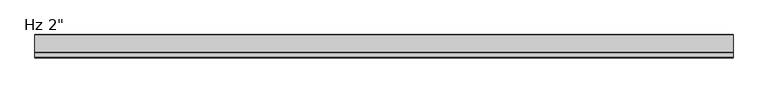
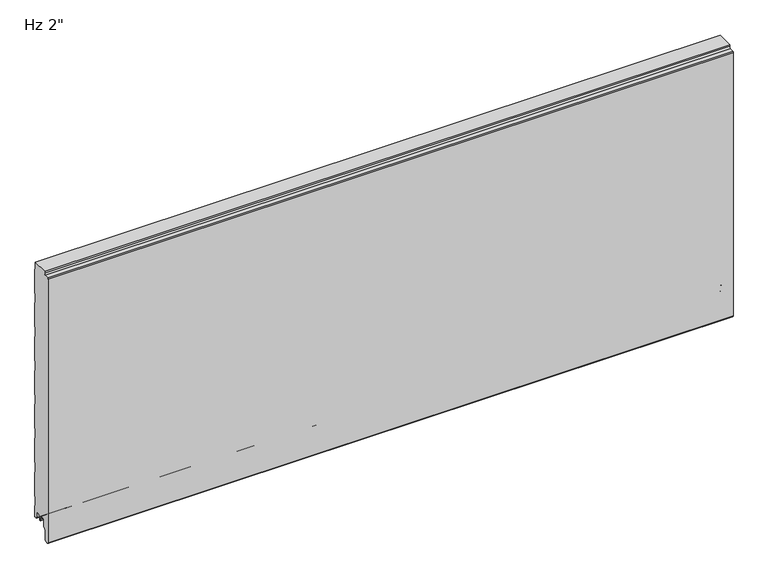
"""IFC4 building model written with IfcOpenShell, lengths in millimetres: plate geometry."""

from ifc_helpers import new_model, si_unit, frame, origin, place, context, project, spatial, polyline, circle_curve, source, transform, mapped, element, save
from ifc_brep_helpers import plane_surface, cylinder_surface, revolved_surface, advanced_brep


def plate_c88ea6cc(model_context):
    return source(origin(), model_context, "Body", "AdvancedBrep", [
        advanced_brep(
        [(-730.0, -22.4708959, 1.0316999), (-730.0, -21.3014212, 2.2328239), (-730.0, -21.3014212, 5.9912173), (-730.0, -22.6999001, 5.9912173), (-730.0, -22.6999001, 8.6903283), (-730.0, -26.0498954, 12.0403236), (-730.0, -30.4498866, 12.0403236), (-730.0, -33.7998819, 8.6903283), (-730.0, -33.7998819, -3.1205608), (-730.0, -34.2977988, -4.3226385), (-730.0, -39.7998699, -9.8247096), (-730.0, -39.7998699, -31.9198392), (-730.0, -42.0184719, -34.5765709), (-730.0, -47.0002927, -35.0125699), (-730.0, -49.7946177, -32.4521176), (-730.0, -49.8000209, 561.115622), (-730.0, -48.0149468, 563.0669057), (-730.0, -39.55397, 563.821161), (-730.0, -36.7906671, 566.9653654), (-730.0, -36.7906671, 571.2), (-730.0, -2.2065959, 571.2), (-730.0, -2.2065959, 555.8181446), (-730.0, -1.0063652, 554.4325117), (-730.0, -1.0063652, 500.3790963), (-730.0, -2.2065959, 498.9934633), (-730.0, -2.2065959, 479.618297), (-730.0, -1.0063652, 478.2326641), (-730.0, -1.0063652, 424.1792487), (-730.0, -2.2065959, 422.7936157), (-730.0, -2.2065959, 403.4184494), (-730.0, -1.0063652, 402.0328165), (-730.0, -1.0063652, 347.9794011), (-730.0, -2.2065959, 346.5937681), (-730.0, -2.2065959, 327.2186018), (-730.0, -1.0063652, 325.8329689), (-730.0, -1.0063652, 271.7795535), (-730.0, -2.2065959, 270.3939205), (-730.0, -2.2065959, 251.0187542), (-730.0, -1.0063652, 249.6331213), (-730.0, -1.0063652, 195.5797059), (-730.0, -2.2065959, 194.1940729), (-730.0, -2.2065959, 174.8189066), (-730.0, -1.0063652, 173.4332737), (-730.0, -1.0063652, 119.3798583), (-730.0, -2.2065959, 117.9942253), (-730.0, -2.2065959, 98.619059), (-730.0, -1.0063652, 97.2334261), (-730.0, -1.0063652, 43.1800107), (-730.0, -2.2065959, 41.7943777), (-730.0, -2.2065959, 22.4192114), (-730.0, -1.0063652, 21.0335785), (-730.0, -1.0063652, -3.4662506), (-730.0, -5.2379042, -3.4662506), (-730.0, -7.0078983, -1.6962564), (-730.0, -7.0078983, 8.7237222), (-730.0, -10.3078942, 12.023718), (-730.0, -14.7078854, 12.023718), (-730.0, -18.0078811, 8.7237223), (-730.0, -18.0078811, 6.0315125), (-730.0, -19.0078757, 6.0315125), (-730.0, -19.0078757, 2.0313089), (-730.0, -18.0078844, 1.0313117), (-730.0, -19.0391961, 0.0), (-730.0, -21.439196, 0.0), (730.0, -22.4708959, 1.0316999), (730.0, -21.439196, 0.0), (730.0, -19.0391961, 0.0), (730.0, -18.0078844, 1.0313117), (730.0, -19.0078757, 2.0313089), (730.0, -19.0078757, 6.0315125), (730.0, -18.0078811, 6.0315125), (730.0, -18.0078811, 8.7237223), (730.0, -14.7078854, 12.023718), (730.0, -10.3078942, 12.023718), (730.0, -7.0078983, 8.7237222), (730.0, -7.0078983, -1.6962564), (730.0, -5.2379042, -3.4662506), (730.0, -1.0063652, -3.4662506), (730.0, -1.0063652, 21.0335785), (730.0, -2.2065959, 22.4192114), (730.0, -2.2065959, 41.7943777), (730.0, -1.0063652, 43.1800107), (730.0, -1.0063652, 97.2334261), (730.0, -2.2065959, 98.619059), (730.0, -2.2065959, 117.9942253), (730.0, -1.0063652, 119.3798583), (730.0, -1.0063652, 173.4332737), (730.0, -2.2065959, 174.8189066), (730.0, -2.2065959, 194.1940729), (730.0, -1.0063652, 195.5797059), (730.0, -1.0063652, 249.6331213), (730.0, -2.2065959, 251.0187542), (730.0, -2.2065959, 270.3939205), (730.0, -1.0063652, 271.7795535), (730.0, -1.0063652, 325.8329689), (730.0, -2.2065959, 327.2186018), (730.0, -2.2065959, 346.5937681), (730.0, -1.0063652, 347.9794011), (730.0, -1.0063652, 402.0328165), (730.0, -2.2065959, 403.4184494), (730.0, -2.2065959, 422.7936157), (730.0, -1.0063652, 424.1792487), (730.0, -1.0063652, 478.2326641), (730.0, -2.2065959, 479.618297), (730.0, -2.2065959, 498.9934633), (730.0, -1.0063652, 500.3790963), (730.0, -1.0063652, 554.4325117), (730.0, -2.2065959, 555.8181446), (730.0, -2.2065959, 571.2), (730.0, -36.7906671, 571.2), (730.0, -36.7906671, 566.9653654), (730.0, -39.55397, 563.821161), (730.0, -48.0149468, 563.0669057), (730.0, -49.8000209, 561.115622), (730.0, -49.8000209, -32.4521176), (730.0, -47.0002927, -35.0125699), (730.0, -42.0184719, -34.5765709), (730.0, -39.7998699, -31.9198392), (730.0, -39.7998699, -9.8247096), (730.0, -34.2977988, -4.3226385), (730.0, -33.7998819, -3.1205608), (730.0, -33.7998819, 8.6903283), (730.0, -30.4498866, 12.0403236), (730.0, -26.0498954, 12.0403236), (730.0, -22.6999001, 8.6903283), (730.0, -22.6999001, 5.9912173), (730.0, -21.3014212, 5.9912173), (730.0, -21.3014212, 2.2328239)],
        [
            (0, 1, circle_curve(frame((-730.0, -22.5014178, 2.2313092), z_axis=(1.0, 0.0, 0.0), x_axis=(0.0, 0.0, -1.0)), 1.1999976)),
            (1, 2),
            (2, 3),
            (3, 4),
            (4, 5, circle_curve(frame((-730.0, -26.0498954, 8.6903283), z_axis=(1.0, 0.0, 0.0), x_axis=(0.0, 0.0, -1.0)), 3.3499953)),
            (5, 6),
            (6, 7, circle_curve(frame((-730.0, -30.4498866, 8.6903283), z_axis=(1.0, 0.0, 0.0), x_axis=(0.0, 0.0, -1.0)), 3.3499953)),
            (7, 8),
            (8, 9, circle_curve(frame((-730.0, -35.4998765, -3.1205608), z_axis=(-1.0, 0.0, 0.0), x_axis=(0.0, 0.0, -1.0)), 1.6999946)),
            (9, 10),
            (10, 11),
            (11, 12, circle_curve(frame((-730.0, -42.4998625, -31.9198392), z_axis=(-1.0, 0.0, 0.0), x_axis=(0.0, 0.0, -1.0)), 2.6999926)),
            (12, 13),
            (13, 14, circle_curve(frame((-730.0, -47.2243784, -32.4521176), z_axis=(-1.0, 0.0, 0.0), x_axis=(0.0, 0.0, -1.0)), 2.5702393)),
            (14, 15),
            (15, 16, circle_curve(frame((-730.0, -47.8409993, 561.115622), z_axis=(-1.0, 0.0, 0.0), x_axis=(0.0, 0.0, -1.0)), 1.9590216)),
            (16, 17),
            (17, 18, circle_curve(frame((-730.0, -39.818053, 566.8396267), z_axis=(1.0, 0.0, 0.0), x_axis=(0.0, 0.0, -1.0)), 3.0299959)),
            (18, 19),
            (19, 20),
            (20, 21),
            (21, 22),
            (22, 23),
            (23, 24),
            (24, 25),
            (25, 26),
            (26, 27),
            (27, 28),
            (28, 29),
            (29, 30),
            (30, 31),
            (31, 32),
            (32, 33),
            (33, 34),
            (34, 35),
            (35, 36),
            (36, 37),
            (37, 38),
            (38, 39),
            (39, 40),
            (40, 41),
            (41, 42),
            (42, 43),
            (43, 44),
            (44, 45),
            (45, 46),
            (46, 47),
            (47, 48),
            (48, 49),
            (49, 50),
            (50, 51),
            (51, 52),
            (52, 53, circle_curve(frame((-730.0, -5.2379042, -1.6962564), z_axis=(-1.0, 0.0, 0.0), x_axis=(0.0, 0.0, -1.0)), 1.7699942)),
            (53, 54),
            (54, 55, circle_curve(frame((-730.0, -10.3078942, 8.7237222), z_axis=(1.0, 0.0, 0.0), x_axis=(0.0, 0.0, -1.0)), 3.2999959)),
            (55, 56),
            (56, 57, circle_curve(frame((-730.0, -14.7078854, 8.7237223), z_axis=(1.0, 0.0, 0.0), x_axis=(0.0, 0.0, -1.0)), 3.2999957)),
            (57, 58),
            (58, 59),
            (59, 60),
            (60, 61, circle_curve(frame((-730.0, -18.0078785, 2.0313089), z_axis=(1.0, 0.0, 0.0), x_axis=(0.0, 0.0, -1.0)), 0.9999972)),
            (61, 62),
            (62, 63),
            (63, 0),
            (64, 65),
            (65, 66),
            (66, 67),
            (67, 68, circle_curve(frame((730.0, -18.0078785, 2.0313089), z_axis=(-1.0, 0.0, 0.0), x_axis=(0.0, 0.0, -1.0)), 0.9999972)),
            (68, 69),
            (69, 70),
            (70, 71),
            (71, 72, circle_curve(frame((730.0, -14.7078854, 8.7237223), z_axis=(-1.0, 0.0, 0.0), x_axis=(0.0, 0.0, -1.0)), 3.2999957)),
            (72, 73),
            (73, 74, circle_curve(frame((730.0, -10.3078942, 8.7237222), z_axis=(-1.0, 0.0, 0.0), x_axis=(0.0, 0.0, -1.0)), 3.2999959)),
            (74, 75),
            (75, 76, circle_curve(frame((730.0, -5.2379042, -1.6962564), z_axis=(1.0, 0.0, 0.0), x_axis=(0.0, 0.0, -1.0)), 1.7699942)),
            (76, 77),
            (77, 78),
            (78, 79),
            (79, 80),
            (80, 81),
            (81, 82),
            (82, 83),
            (83, 84),
            (84, 85),
            (85, 86),
            (86, 87),
            (87, 88),
            (88, 89),
            (89, 90),
            (90, 91),
            (91, 92),
            (92, 93),
            (93, 94),
            (94, 95),
            (95, 96),
            (96, 97),
            (97, 98),
            (98, 99),
            (99, 100),
            (100, 101),
            (101, 102),
            (102, 103),
            (103, 104),
            (104, 105),
            (105, 106),
            (106, 107),
            (107, 108),
            (108, 109),
            (109, 110),
            (110, 111, circle_curve(frame((730.0, -39.818053, 566.8396267), z_axis=(-1.0, 0.0, 0.0), x_axis=(0.0, 0.0, -1.0)), 3.0299959)),
            (111, 112),
            (112, 113, circle_curve(frame((730.0, -47.8409993, 561.115622), z_axis=(1.0, 0.0, 0.0), x_axis=(0.0, 0.0, -1.0)), 1.9590216)),
            (113, 114),
            (114, 115, circle_curve(frame((730.0, -47.2243784, -32.4521176), z_axis=(1.0, 0.0, 0.0), x_axis=(0.0, 0.0, -1.0)), 2.5702393)),
            (115, 116),
            (116, 117, circle_curve(frame((730.0, -42.4998625, -31.9198392), z_axis=(1.0, 0.0, 0.0), x_axis=(0.0, 0.0, -1.0)), 2.6999926)),
            (117, 118),
            (118, 119),
            (119, 120, circle_curve(frame((730.0, -35.4998765, -3.1205608), z_axis=(1.0, 0.0, 0.0), x_axis=(0.0, 0.0, -1.0)), 1.6999946)),
            (120, 121),
            (121, 122, circle_curve(frame((730.0, -30.4498866, 8.6903283), z_axis=(-1.0, 0.0, 0.0), x_axis=(0.0, 0.0, -1.0)), 3.3499953)),
            (122, 123),
            (123, 124, circle_curve(frame((730.0, -26.0498954, 8.6903283), z_axis=(-1.0, 0.0, 0.0), x_axis=(0.0, 0.0, -1.0)), 3.3499953)),
            (124, 125),
            (125, 126),
            (126, 127),
            (127, 64, circle_curve(frame((730.0, -22.5014178, 2.2313092), z_axis=(-1.0, 0.0, 0.0), x_axis=(0.0, 0.0, -1.0)), 1.1999976)),
            (19, 109),
            (108, 20),
            (62, 66),
            (65, 63),
            (30, 98),
            (97, 31),
            (96, 32),
            (95, 33),
            (34, 94),
            (93, 35),
            (36, 92),
            (91, 37),
            (90, 38),
            (89, 39),
            (42, 86),
            (85, 43),
            (41, 87),
            (40, 88),
            (44, 84),
            (83, 45),
            (46, 82),
            (81, 47),
            (50, 78),
            (77, 51),
            (48, 80),
            (79, 49),
            (0, 64),
            (127, 1),
            (54, 74),
            (73, 55),
            (76, 52),
            (53, 75),
            (56, 72),
            (71, 57),
            (58, 70),
            (69, 59),
            (14, 114),
            (113, 15),
            (61, 67),
            (60, 68),
            (13, 115),
            (12, 116),
            (10, 118),
            (117, 11),
            (9, 119),
            (7, 121),
            (120, 8),
            (6, 122),
            (4, 124),
            (123, 5),
            (3, 125),
            (2, 126),
            (21, 107),
            (106, 22),
            (25, 103),
            (102, 26),
            (24, 104),
            (23, 105),
            (101, 27),
            (100, 28),
            (99, 29),
            (16, 112),
            (111, 17),
            (110, 18),
        ],
        [
            plane_surface(frame((-730.0, -49.8000209, 304.8), z_axis=(-1.0, 0.0, 0.0), x_axis=(0.0, -1.0, 0.0))),
            plane_surface(frame((730.0, -49.8000209, 304.8), z_axis=(1.0, 0.0, 0.0), x_axis=(0.0, -1.0, 0.0))),
            plane_surface(frame((730.0, 9.9999791, 571.2), z_axis=(0.0, 0.0, 1.0), x_axis=(-1.0, 0.0, 0.0))),
            plane_surface(frame((-730.0, -21.439196, 0.0), z_axis=(0.0, 0.0, -1.0), x_axis=(1.0, 0.0, 0.0))),
            plane_surface(frame((-730.0, -1.0063652, 347.9794011), z_axis=(0.0, 1.0, 0.0), x_axis=(1.0, 0.0, 0.0))),
            plane_surface(frame((-730.0, -2.2065959, 346.5937681), z_axis=(0.0, 0.7558648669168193, -0.6547276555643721), x_axis=(1.0, 0.0, 0.0))),
            plane_surface(frame((-730.0, -2.2065959, 327.2186018), z_axis=(0.0, 1.0, 0.0), x_axis=(1.0, 0.0, 0.0))),
            plane_surface(frame((-730.0, -1.0063652, 271.7795535), z_axis=(0.0, 1.0, 0.0), x_axis=(1.0, 0.0, 0.0))),
            plane_surface(frame((-730.0, -1.0063652, 325.8329689), z_axis=(0.0, 0.755864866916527, 0.6547276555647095), x_axis=(1.0, 0.0, 0.0))),
            plane_surface(frame((-730.0, -2.2065959, 251.0187542), z_axis=(0.0, 1.0, 0.0), x_axis=(1.0, 0.0, 0.0))),
            plane_surface(frame((-730.0, -1.0063652, 249.6331213), z_axis=(0.0, 0.755864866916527, 0.6547276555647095), x_axis=(1.0, 0.0, 0.0))),
            plane_surface(frame((-730.0, -2.2065959, 270.3939205), z_axis=(0.0, 0.755864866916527, -0.6547276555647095), x_axis=(1.0, 0.0, 0.0))),
            plane_surface(frame((-730.0, -1.0063652, 195.5797059), z_axis=(0.0, 1.0, 0.0), x_axis=(1.0, 0.0, 0.0))),
            plane_surface(frame((-730.0, -1.0063652, 119.3798583), z_axis=(0.0, 1.0, 0.0), x_axis=(1.0, 0.0, 0.0))),
            plane_surface(frame((-730.0, -1.0063652, 173.4332737), z_axis=(0.0, 0.7558648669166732, 0.6547276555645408), x_axis=(1.0, 0.0, 0.0))),
            plane_surface(frame((-730.0, -2.2065959, 174.8189066), z_axis=(0.0, 1.0, 0.0), x_axis=(1.0, 0.0, 0.0))),
            plane_surface(frame((-730.0, -2.2065959, 194.1940729), z_axis=(0.0, 0.755864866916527, -0.6547276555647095), x_axis=(1.0, 0.0, 0.0))),
            plane_surface(frame((-730.0, -2.2065959, 98.619059), z_axis=(0.0, 1.0, 0.0), x_axis=(1.0, 0.0, 0.0))),
            plane_surface(frame((-730.0, -2.2065959, 117.9942253), z_axis=(0.0, 0.7558648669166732, -0.6547276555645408), x_axis=(1.0, 0.0, 0.0))),
            plane_surface(frame((-730.0, -1.0063652, 43.1800107), z_axis=(0.0, 1.0, 0.0), x_axis=(1.0, 0.0, 0.0))),
            plane_surface(frame((-730.0, -1.0063652, 97.2334261), z_axis=(0.0, 0.7558648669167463, 0.6547276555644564), x_axis=(1.0, 0.0, 0.0))),
            plane_surface(frame((-730.0, -1.0063652, -3.4662506), z_axis=(0.0, 1.0, 0.0), x_axis=(1.0, 0.0, 0.0))),
            plane_surface(frame((-730.0, -2.2065959, 22.4192114), z_axis=(0.0, 1.0, 0.0), x_axis=(1.0, 0.0, 0.0))),
            plane_surface(frame((-730.0, -2.2065959, 41.7943777), z_axis=(0.0, 0.7558648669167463, -0.6547276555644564), x_axis=(1.0, 0.0, 0.0))),
            plane_surface(frame((-730.0, -1.0063652, 21.0335785), z_axis=(0.0, 0.7558648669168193, 0.6547276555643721), x_axis=(1.0, 0.0, 0.0))),
            revolved_surface(polyline([(730.0, -22.5014178, 1.0313116), (-730.0, -22.5014178, 1.0313116)]), (-730.0, -22.5014178, 2.2313092), (1.0, 0.0, 0.0)),
            plane_surface(frame((-730.0, -22.4708959, 1.0316999), z_axis=(0.0, -0.7071067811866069, -0.7071067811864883), x_axis=(1.0, 0.0, 0.0))),
            revolved_surface(polyline([(730.0, -10.3078942, 5.423726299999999), (-730.0, -10.3078942, 5.423726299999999)]), (-730.0, -10.3078942, 8.7237222), (1.0, 0.0, 0.0)),
            plane_surface(frame((-730.0, -5.2379042, -3.4662506), z_axis=(0.0, 0.0, -1.0), x_axis=(1.0, 0.0, 0.0))),
            plane_surface(frame((-730.0, -7.0078983, 8.7237222), z_axis=(0.0, -1.0, 0.0), x_axis=(1.0, 0.0, 0.0))),
            cylinder_surface(frame((-730.0, -5.2379042, -1.6962564), z_axis=(-1.0, 0.0, 0.0), x_axis=(0.0, 0.0, -1.0)), 1.7699942),
            revolved_surface(polyline([(730.0, -14.7078854, 5.4237266), (-730.0, -14.7078854, 5.4237266)]), (-730.0, -14.7078854, 8.7237223), (1.0, 0.0, 0.0)),
            plane_surface(frame((-730.0, -14.7078854, 12.023718), z_axis=(0.0, 0.0, -1.0), x_axis=(1.0, 0.0, 0.0))),
            plane_surface(frame((-730.0, -19.0078757, 6.0315125), z_axis=(0.0, 0.0, -1.0), x_axis=(1.0, 0.0, 0.0))),
            plane_surface(frame((-730.0, -18.0078811, 6.0315125), z_axis=(0.0, 1.0, 0.0), x_axis=(1.0, 0.0, 0.0))),
            plane_surface(frame((-730.0, -49.8000209, 561.115622), z_axis=(0.0, -1.0, 0.0), x_axis=(1.0, 0.0, 0.0))),
            plane_surface(frame((-730.0, -19.0391961, 0.0), z_axis=(0.0, 0.7071067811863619, -0.7071067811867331), x_axis=(1.0, 0.0, 0.0))),
            revolved_surface(polyline([(730.0, -18.0078785, 1.0313116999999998), (-730.0, -18.0078785, 1.0313116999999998)]), (-730.0, -18.0078785, 2.0313089), (1.0, 0.0, 0.0)),
            plane_surface(frame((-730.0, -19.0078757, 2.0313089), z_axis=(0.0, 1.0, 0.0), x_axis=(1.0, 0.0, 0.0))),
            cylinder_surface(frame((-730.0, -47.2243784, -32.4521176), z_axis=(-1.0, 0.0, 0.0), x_axis=(0.0, 0.0, -1.0)), 2.5702393),
            plane_surface(frame((-730.0, -47.0002927, -35.0125699), z_axis=(0.0, 0.08718474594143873, -0.9961921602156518), x_axis=(1.0, 0.0, 0.0))),
            plane_surface(frame((-730.0, -39.7998699, -31.9198392), z_axis=(0.0, 1.0, 0.0), x_axis=(1.0, 0.0, 0.0))),
            cylinder_surface(frame((-730.0, -42.4998625, -31.9198392), z_axis=(-1.0, 0.0, 0.0), x_axis=(0.0, 0.0, -1.0)), 2.6999926),
            plane_surface(frame((-730.0, -39.7998699, -9.8247096), z_axis=(0.0, 0.7071067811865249, -0.7071067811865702), x_axis=(1.0, 0.0, 0.0))),
            plane_surface(frame((-730.0, -33.7998819, -3.1205608), z_axis=(0.0, 1.0, 0.0), x_axis=(1.0, 0.0, 0.0))),
            revolved_surface(polyline([(730.0, -30.4498866, 5.340332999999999), (-730.0, -30.4498866, 5.340332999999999)]), (-730.0, -30.4498866, 8.6903283), (1.0, 0.0, 0.0)),
            cylinder_surface(frame((-730.0, -35.4998765, -3.1205608), z_axis=(-1.0, 0.0, 0.0), x_axis=(0.0, 0.0, -1.0)), 1.6999946),
            revolved_surface(polyline([(730.0, -26.0498954, 5.340332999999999), (-730.0, -26.0498954, 5.340332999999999)]), (-730.0, -26.0498954, 8.6903283), (1.0, 0.0, 0.0)),
            plane_surface(frame((-730.0, -30.4498866, 12.0403236), z_axis=(0.0, 0.0, -1.0), x_axis=(1.0, 0.0, 0.0))),
            plane_surface(frame((-730.0, -22.6999001, 8.6903283), z_axis=(0.0, -1.0, 0.0), x_axis=(1.0, 0.0, 0.0))),
            plane_surface(frame((-730.0, -22.6999001, 5.9912173), z_axis=(0.0, 0.0, -1.0), x_axis=(1.0, 0.0, 0.0))),
            plane_surface(frame((-730.0, -21.3014212, 5.9912173), z_axis=(0.0, -1.0, 0.0), x_axis=(1.0, 0.0, 0.0))),
            plane_surface(frame((-730.0, -1.0063652, 554.4325117), z_axis=(0.0, 0.7558648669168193, 0.6547276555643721), x_axis=(1.0, 0.0, 0.0))),
            plane_surface(frame((-730.0, -1.0063652, 478.2326641), z_axis=(0.0, 0.7558648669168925, 0.6547276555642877), x_axis=(1.0, 0.0, 0.0))),
            plane_surface(frame((-730.0, -2.2065959, 479.618297), z_axis=(0.0, 1.0, 0.0), x_axis=(1.0, 0.0, 0.0))),
            plane_surface(frame((-730.0, -2.2065959, 498.9934633), z_axis=(0.0, 0.7558648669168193, -0.6547276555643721), x_axis=(1.0, 0.0, 0.0))),
            plane_surface(frame((-730.0, -2.2065959, 555.8181446), z_axis=(0.0, 1.0, 0.0), x_axis=(1.0, 0.0, 0.0))),
            plane_surface(frame((-730.0, -1.0063652, 500.3790963), z_axis=(0.0, 1.0, 0.0), x_axis=(1.0, 0.0, 0.0))),
            plane_surface(frame((-730.0, -1.0063652, 424.1792487), z_axis=(0.0, 1.0, 0.0), x_axis=(1.0, 0.0, 0.0))),
            plane_surface(frame((-730.0, -2.2065959, 422.7936157), z_axis=(0.0, 0.7558648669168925, -0.6547276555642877), x_axis=(1.0, 0.0, 0.0))),
            plane_surface(frame((-730.0, -2.2065959, 403.4184494), z_axis=(0.0, 1.0, 0.0), x_axis=(1.0, 0.0, 0.0))),
            plane_surface(frame((-730.0, -1.0063652, 402.0328165), z_axis=(0.0, 0.7558648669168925, 0.6547276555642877), x_axis=(1.0, 0.0, 0.0))),
            plane_surface(frame((-730.0, -39.55397, 563.821161), z_axis=(0.0, -0.08879306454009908, 0.9960500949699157), x_axis=(1.0, 0.0, 0.0))),
            revolved_surface(polyline([(730.0, -39.818053, 563.8096308), (-730.0, -39.818053, 563.8096308)]), (-730.0, -39.818053, 566.8396267), (1.0, 0.0, 0.0)),
            cylinder_surface(frame((-730.0, -47.8409993, 561.115622), z_axis=(-1.0, 0.0, 0.0), x_axis=(0.0, 0.0, -1.0)), 1.9590216),
            plane_surface(frame((-730.0, -36.7906671, 577.0583308), z_axis=(0.0, -1.0, 0.0), x_axis=(1.0, 0.0, 0.0))),
        ],
        [
            (0, [[1, 2, 3, 4, 5, 6, 7, 8, 9, 10, 11, 12, 13, 14, 15, 16, 17, 18, 19, 20, 21, 22, 23, 24, 25, 26, 27, 28, 29, 30, 31, 32, 33, 34, 35, 36, 37, 38, 39, 40, 41, 42, 43, 44, 45, 46, 47, 48, 49, 50, 51, 52, 53, 54, 55, 56, 57, 58, 59, 60, 61, 62, 63, 64]]),
            (1, [[65, 66, 67, 68, 69, 70, 71, 72, 73, 74, 75, 76, 77, 78, 79, 80, 81, 82, 83, 84, 85, 86, 87, 88, 89, 90, 91, 92, 93, 94, 95, 96, 97, 98, 99, 100, 101, 102, 103, 104, 105, 106, 107, 108, 109, 110, 111, 112, 113, 114, 115, 116, 117, 118, 119, 120, 121, 122, 123, 124, 125, 126, 127, 128]]),
            (2, [[129, -109, 130, -20]]),
            (3, [[131, -66, 132, -63]]),
            (4, [[133, -98, 134, -31]]),
            (5, [[-134, -97, 135, -32]]),
            (6, [[-135, -96, 136, -33]]),
            (7, [[137, -94, 138, -35]]),
            (8, [[-136, -95, -137, -34]]),
            (9, [[139, -92, 140, -37]]),
            (10, [[-140, -91, 141, -38]]),
            (11, [[-138, -93, -139, -36]]),
            (12, [[-141, -90, 142, -39]]),
            (13, [[143, -86, 144, -43]]),
            (14, [[145, -87, -143, -42]]),
            (15, [[146, -88, -145, -41]]),
            (16, [[-142, -89, -146, -40]]),
            (17, [[147, -84, 148, -45]]),
            (18, [[-144, -85, -147, -44]]),
            (19, [[149, -82, 150, -47]]),
            (20, [[-148, -83, -149, -46]]),
            (21, [[151, -78, 152, -51]]),
            (22, [[153, -80, 154, -49]]),
            (23, [[-150, -81, -153, -48]]),
            (24, [[-154, -79, -151, -50]]),
            (25, [[155, -128, 156, -1]]),
            (26, [[-132, -65, -155, -64]]),
            (27, [[157, -74, 158, -55]]),
            (28, [[-152, -77, 159, -52]]),
            (29, [[160, -75, -157, -54]]),
            (30, [[-159, -76, -160, -53]]),
            (31, [[161, -72, 162, -57]]),
            (32, [[-158, -73, -161, -56]]),
            (33, [[163, -70, 164, -59]]),
            (34, [[-162, -71, -163, -58]]),
            (35, [[165, -114, 166, -15]]),
            (36, [[167, -67, -131, -62]]),
            (37, [[168, -68, -167, -61]]),
            (38, [[-164, -69, -168, -60]]),
            (39, [[169, -115, -165, -14]]),
            (40, [[170, -116, -169, -13]]),
            (41, [[171, -118, 172, -11]]),
            (42, [[-172, -117, -170, -12]]),
            (43, [[173, -119, -171, -10]]),
            (44, [[174, -121, 175, -8]]),
            (45, [[176, -122, -174, -7]]),
            (46, [[-175, -120, -173, -9]]),
            (47, [[177, -124, 178, -5]]),
            (48, [[-178, -123, -176, -6]]),
            (49, [[179, -125, -177, -4]]),
            (50, [[180, -126, -179, -3]]),
            (51, [[-156, -127, -180, -2]]),
            (52, [[181, -107, 182, -22]]),
            (53, [[183, -103, 184, -26]]),
            (54, [[185, -104, -183, -25]]),
            (55, [[186, -105, -185, -24]]),
            (56, [[-21, -130, -108, -181]]),
            (57, [[-182, -106, -186, -23]]),
            (58, [[-184, -102, 187, -27]]),
            (59, [[-187, -101, 188, -28]]),
            (60, [[-188, -100, 189, -29]]),
            (61, [[-189, -99, -133, -30]]),
            (62, [[190, -112, 191, -17]]),
            (63, [[-191, -111, 192, -18]]),
            (64, [[-166, -113, -190, -16]]),
            (65, [[-110, -129, -19, -192]]),
        ],
    ),
    ])


if __name__ == "__main__":
    model = new_model("IFC4")
    model_context = context("Model", 3, world=origin())
    ifc_project = project(units=[si_unit("LENGTHUNIT", "METRE", prefix="MILLI")], contexts=[model_context])
    site = spatial("IfcSite", under=ifc_project)
    building = spatial("IfcBuilding", under=site)
    placement = place(None, origin())
    plate_shape = plate_c88ea6cc(model_context)
    element("IfcPlate", 1, ObjectType="KIP-24-Karrier-KP-R19-CP-Hz-FL3-8in_SL : Hz 2\"", at=placement, inside=building, context=model_context, shape_type="MappedRepresentation", body=[
        mapped(plate_shape, transform((0.0, 0.0, 0.0), x_axis=(1.0, 0.0, 0.0), y_axis=(0.0, 1.0, 0.0), z_axis=(0.0, 0.0, 1.0))),
    ])
    save(model, "model.ifc")
